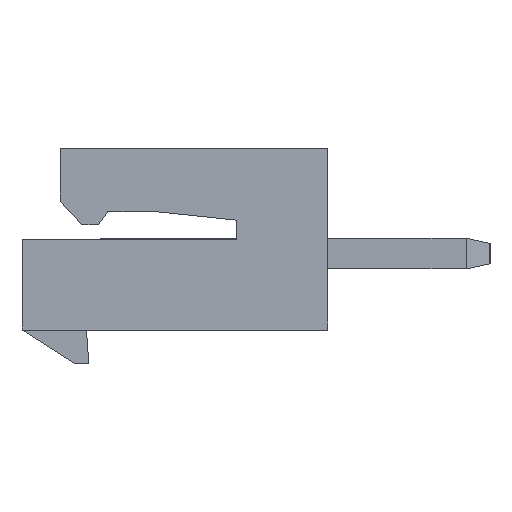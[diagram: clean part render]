
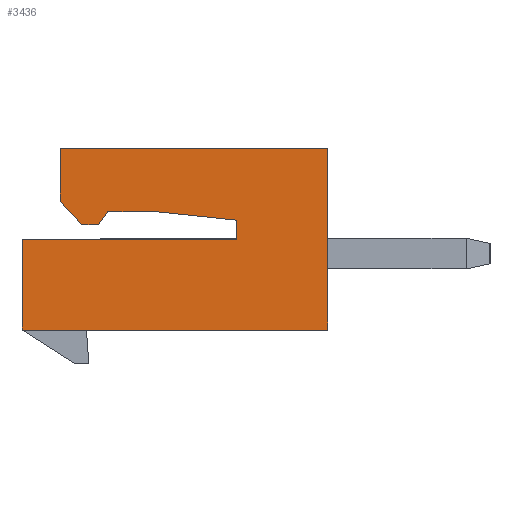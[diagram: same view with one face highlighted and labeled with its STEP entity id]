
A CAD part, left-side view. The second image highlights one B-rep face of the part: STEP entity #3436.
In plain terms, the highlighted planar face has unit normal (-1, 0, 0).
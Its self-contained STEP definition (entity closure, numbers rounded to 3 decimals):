
#61 = VECTOR ( 'NONE', #9592, 1000. ) ;
#436 = LINE ( 'NONE', #10135, #4358 ) ;
#448 = DIRECTION ( 'NONE',  ( 1., 0., 0. ) ) ;
#716 = VECTOR ( 'NONE', #4206, 1000. ) ;
#729 = LINE ( 'NONE', #9335, #8391 ) ;
#761 = DIRECTION ( 'NONE',  ( 0., 0., 1. ) ) ;
#1371 = LINE ( 'NONE', #4151, #9188 ) ;
#1547 = VECTOR ( 'NONE', #12175, 1000. ) ;
#2232 = VERTEX_POINT ( 'NONE', #9179 ) ;
#2389 = CARTESIAN_POINT ( 'NONE',  ( -7.227, -1.495, 0.4 ) ) ;
#2410 = ORIENTED_EDGE ( 'NONE', *, *, #10602, .F. ) ;
#2416 = PLANE ( 'NONE',  #8436 ) ;
#2436 = CARTESIAN_POINT ( 'NONE',  ( -7.227, 3.005, 1.9 ) ) ;
#2962 = VERTEX_POINT ( 'NONE', #9978 ) ;
#3006 = CARTESIAN_POINT ( 'NONE',  ( -7.227, 3.005, 1.9 ) ) ;
#3242 = FACE_OUTER_BOUND ( 'NONE', #9921, .T. ) ;
#3432 = LINE ( 'NONE', #7258, #7125 ) ;
#3436 = ADVANCED_FACE ( 'NONE', ( #3242 ), #2416, .F. ) ;
#3473 = DIRECTION ( 'NONE',  ( 0., 0.59, -0.807 ) ) ;
#3702 = LINE ( 'NONE', #3006, #4733 ) ;
#3860 = VERTEX_POINT ( 'NONE', #7004 ) ;
#3970 = EDGE_CURVE ( 'NONE', #12154, #10454, #3432, .T. ) ;
#4151 = CARTESIAN_POINT ( 'NONE',  ( -7.227, 1.405, 0.3 ) ) ;
#4206 = DIRECTION ( 'NONE',  ( 0., 0., -1. ) ) ;
#4225 = LINE ( 'NONE', #11986, #11226 ) ;
#4358 = VECTOR ( 'NONE', #10203, 1000. ) ;
#4461 = LINE ( 'NONE', #7455, #1547 ) ;
#4656 = CARTESIAN_POINT ( 'NONE',  ( -7.227, 3.005, -1.9 ) ) ;
#4721 = LINE ( 'NONE', #4656, #61 ) ;
#4733 = VECTOR ( 'NONE', #8518, 1000. ) ;
#4902 = ORIENTED_EDGE ( 'NONE', *, *, #7029, .F. ) ;
#5048 = LINE ( 'NONE', #9707, #6181 ) ;
#5741 = ORIENTED_EDGE ( 'NONE', *, *, #9629, .T. ) ;
#5841 = CARTESIAN_POINT ( 'NONE',  ( -7.227, -3.395, 1.9 ) ) ;
#6013 = CARTESIAN_POINT ( 'NONE',  ( -7.227, 1.405, 0.3 ) ) ;
#6181 = VECTOR ( 'NONE', #8882, 1000. ) ;
#6281 = DIRECTION ( 'NONE',  ( 0., 0.995, 0.105 ) ) ;
#6318 = CARTESIAN_POINT ( 'NONE',  ( -7.227, 0.155, 0.573 ) ) ;
#6474 = EDGE_CURVE ( 'NONE', #12375, #10789, #729, .T. ) ;
#6546 = ORIENTED_EDGE ( 'NONE', *, *, #9532, .F. ) ;
#7004 = CARTESIAN_POINT ( 'NONE',  ( -7.227, 1.205, 0.573 ) ) ;
#7029 = EDGE_CURVE ( 'NONE', #2232, #10104, #5048, .T. ) ;
#7039 = VECTOR ( 'NONE', #3473, 1000. ) ;
#7096 = EDGE_CURVE ( 'NONE', #8611, #9306, #8265, .T. ) ;
#7125 = VECTOR ( 'NONE', #6281, 1000. ) ;
#7152 = DIRECTION ( 'NONE',  ( 0., -1., 0. ) ) ;
#7258 = CARTESIAN_POINT ( 'NONE',  ( -7.227, -1.495, 0.4 ) ) ;
#7359 = CARTESIAN_POINT ( 'NONE',  ( -7.227, 1.205, 0.573 ) ) ;
#7410 = EDGE_CURVE ( 'NONE', #10104, #10262, #436, .T. ) ;
#7455 = CARTESIAN_POINT ( 'NONE',  ( -7.227, 0.155, 0.573 ) ) ;
#7587 = ORIENTED_EDGE ( 'NONE', *, *, #8465, .F. ) ;
#8115 = DIRECTION ( 'NONE',  ( 0., 1., 0. ) ) ;
#8180 = CARTESIAN_POINT ( 'NONE',  ( -7.227, 3.005, 1.9 ) ) ;
#8219 = DIRECTION ( 'NONE',  ( 0., 0., -1. ) ) ;
#8265 = LINE ( 'NONE', #2436, #716 ) ;
#8326 = ORIENTED_EDGE ( 'NONE', *, *, #10118, .F. ) ;
#8391 = VECTOR ( 'NONE', #8219, 1000. ) ;
#8436 = AXIS2_PLACEMENT_3D ( 'NONE', #8180, #448, #8115 ) ;
#8465 = EDGE_CURVE ( 'NONE', #3860, #9100, #10991, .T. ) ;
#8490 = LINE ( 'NONE', #11247, #11043 ) ;
#8518 = DIRECTION ( 'NONE',  ( 0., -1., 0. ) ) ;
#8611 = VERTEX_POINT ( 'NONE', #10770 ) ;
#8692 = ORIENTED_EDGE ( 'NONE', *, *, #7096, .T. ) ;
#8882 = DIRECTION ( 'NONE',  ( 0., 0.669, 0.743 ) ) ;
#9068 = CARTESIAN_POINT ( 'NONE',  ( -7.227, -3.395, -1.9 ) ) ;
#9100 = VERTEX_POINT ( 'NONE', #6013 ) ;
#9179 = CARTESIAN_POINT ( 'NONE',  ( -7.227, 1.755, 0.3 ) ) ;
#9188 = VECTOR ( 'NONE', #11850, 1000. ) ;
#9247 = CARTESIAN_POINT ( 'NONE',  ( -7.227, 2.205, 1.9 ) ) ;
#9306 = VERTEX_POINT ( 'NONE', #10396 ) ;
#9335 = CARTESIAN_POINT ( 'NONE',  ( -7.227, -3.395, 1.9 ) ) ;
#9506 = ORIENTED_EDGE ( 'NONE', *, *, #3970, .F. ) ;
#9532 = EDGE_CURVE ( 'NONE', #8611, #2962, #4225, .T. ) ;
#9592 = DIRECTION ( 'NONE',  ( 0., -1., 0. ) ) ;
#9629 = EDGE_CURVE ( 'NONE', #9306, #10789, #4721, .T. ) ;
#9707 = CARTESIAN_POINT ( 'NONE',  ( -7.227, 1.755, 0.3 ) ) ;
#9716 = ORIENTED_EDGE ( 'NONE', *, *, #11379, .F. ) ;
#9797 = ORIENTED_EDGE ( 'NONE', *, *, #12315, .F. ) ;
#9921 = EDGE_LOOP ( 'NONE', ( #9716, #10661, #4902, #2410, #7587, #9797, #9506, #8326, #6546, #8692, #5741, #10317 ) ) ;
#9978 = CARTESIAN_POINT ( 'NONE',  ( -7.227, -1.495, 0. ) ) ;
#10104 = VERTEX_POINT ( 'NONE', #11425 ) ;
#10118 = EDGE_CURVE ( 'NONE', #2962, #12154, #8490, .T. ) ;
#10135 = CARTESIAN_POINT ( 'NONE',  ( -7.227, 2.205, 0.8 ) ) ;
#10203 = DIRECTION ( 'NONE',  ( 0., 0., 1. ) ) ;
#10262 = VERTEX_POINT ( 'NONE', #9247 ) ;
#10317 = ORIENTED_EDGE ( 'NONE', *, *, #6474, .F. ) ;
#10396 = CARTESIAN_POINT ( 'NONE',  ( -7.227, 3.005, -1.9 ) ) ;
#10454 = VERTEX_POINT ( 'NONE', #6318 ) ;
#10602 = EDGE_CURVE ( 'NONE', #9100, #2232, #1371, .T. ) ;
#10661 = ORIENTED_EDGE ( 'NONE', *, *, #7410, .F. ) ;
#10770 = CARTESIAN_POINT ( 'NONE',  ( -7.227, 3.005, 0. ) ) ;
#10789 = VERTEX_POINT ( 'NONE', #9068 ) ;
#10991 = LINE ( 'NONE', #7359, #7039 ) ;
#11043 = VECTOR ( 'NONE', #761, 1000. ) ;
#11226 = VECTOR ( 'NONE', #7152, 1000. ) ;
#11247 = CARTESIAN_POINT ( 'NONE',  ( -7.227, -1.495, 0. ) ) ;
#11379 = EDGE_CURVE ( 'NONE', #10262, #12375, #3702, .T. ) ;
#11425 = CARTESIAN_POINT ( 'NONE',  ( -7.227, 2.205, 0.8 ) ) ;
#11850 = DIRECTION ( 'NONE',  ( 0., 1., 0. ) ) ;
#11986 = CARTESIAN_POINT ( 'NONE',  ( -7.227, 3.005, 0. ) ) ;
#12154 = VERTEX_POINT ( 'NONE', #2389 ) ;
#12175 = DIRECTION ( 'NONE',  ( 0., 1., 0. ) ) ;
#12315 = EDGE_CURVE ( 'NONE', #10454, #3860, #4461, .T. ) ;
#12375 = VERTEX_POINT ( 'NONE', #5841 ) ;
